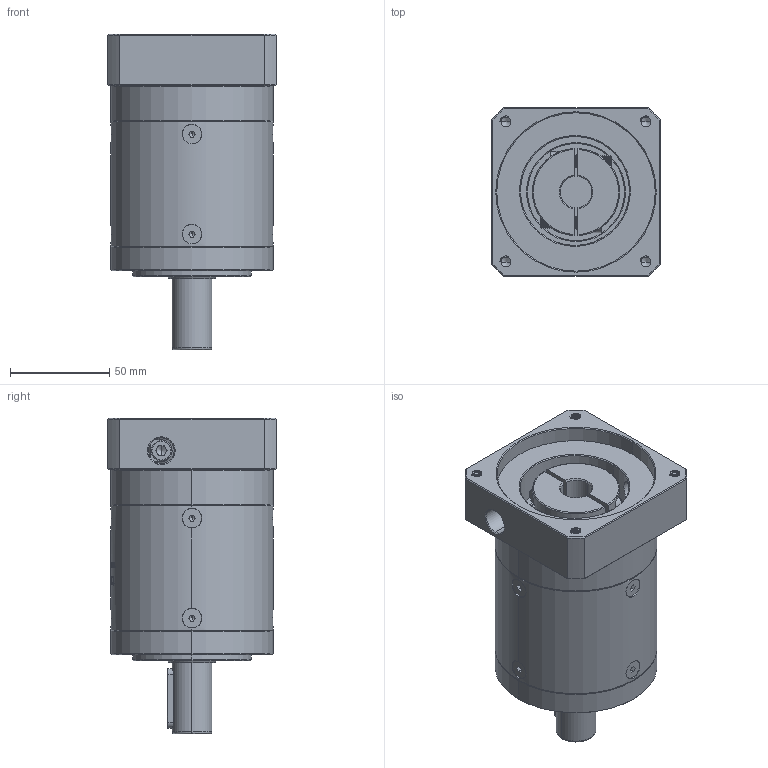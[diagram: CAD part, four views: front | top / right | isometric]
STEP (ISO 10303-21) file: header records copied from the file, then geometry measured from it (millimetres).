
FILE_DESCRIPTION (( 'STEP AP214' ), '1' );
FILE_NAME ('ZE80-D20-L2-16-80-100-M6.step', '2022-05-08T05:51:15', ( '' ), ( 'Microsoft' ), 'SwSTEP 2.0', 'SolidWorks 2016', '' );
FILE_SCHEMA (( 'AUTOMOTIVE_DESIGN' ));
Length unit declared in the file: millimetre
Products named in the file (1): ZE80-D20-L2-16-80-100-M6
Bounding box: 85 x 85 x 159.5 mm (x, y, z)
Volume: 613027 mm3; surface area: 90547.4 mm2
Topology: 13 solids, 13 shells, 2064 faces, 5374 edges, 3399 vertices
Faces by surface type: plane 891, cylinder 500, bspline 332, cone 324, torus 17
Entity records: 118343 total; most frequent: CARTESIAN_POINT 49400, ORIENTED_EDGE 10672, DIRECTION 8196, EDGE_CURVE 5336, VERTEX_POINT 3399, LINE 2858, VECTOR 2858, AXIS2_PLACEMENT_3D 2669
